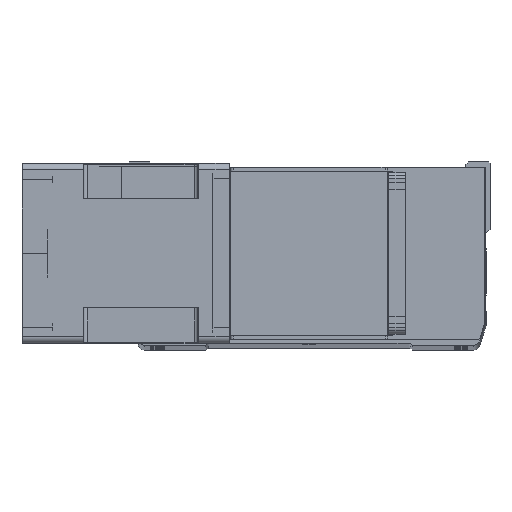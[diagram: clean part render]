
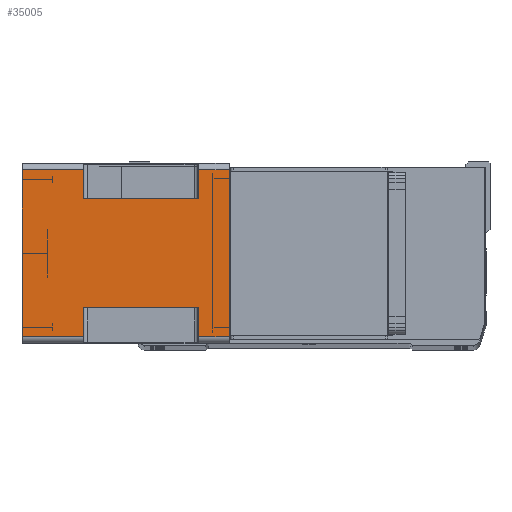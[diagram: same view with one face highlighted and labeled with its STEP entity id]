
A CAD part, top view. The second image highlights one B-rep face of the part: STEP entity #35005.
In plain terms, the highlighted planar face has unit normal (0, 0, 1) as drawn and (-1, 0, 0) by its records, which use the part's own axes.
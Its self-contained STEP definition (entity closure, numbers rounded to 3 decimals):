
#381 = EDGE_CURVE ( 'NONE', #16738, #31670, #1387, .T. ) ;
#1228 = CARTESIAN_POINT ( 'NONE',  ( -71., -43., -164. ) ) ;
#1387 = LINE ( 'NONE', #34903, #26887 ) ;
#2086 = CARTESIAN_POINT ( 'NONE',  ( -71., -66., -164. ) ) ;
#2561 = ORIENTED_EDGE ( 'NONE', *, *, #11242, .T. ) ;
#2959 = DIRECTION ( 'NONE',  ( 0., 0., 1. ) ) ;
#3012 = DIRECTION ( 'NONE',  ( 0., 0., 1. ) ) ;
#3371 = ORIENTED_EDGE ( 'NONE', *, *, #38699, .F. ) ;
#4619 = DIRECTION ( 'NONE',  ( 0., -1., 0. ) ) ;
#5558 = CARTESIAN_POINT ( 'NONE',  ( -71., -43., -115.5 ) ) ;
#5876 = ORIENTED_EDGE ( 'NONE', *, *, #33374, .T. ) ;
#6402 = VERTEX_POINT ( 'NONE', #11951 ) ;
#6813 = VECTOR ( 'NONE', #26526, 1000. ) ;
#6864 = PLANE ( 'NONE',  #30911 ) ;
#6909 = EDGE_CURVE ( 'NONE', #40257, #15637, #44112, .T. ) ;
#7667 = EDGE_CURVE ( 'NONE', #26452, #15637, #29658, .T. ) ;
#7987 = VECTOR ( 'NONE', #21641, 1000. ) ;
#8986 = EDGE_CURVE ( 'NONE', #6402, #43160, #26814, .T. ) ;
#9365 = DIRECTION ( 'NONE',  ( 0., 0., 1. ) ) ;
#9717 = VECTOR ( 'NONE', #4619, 1000. ) ;
#9842 = FACE_OUTER_BOUND ( 'NONE', #43805, .T. ) ;
#10413 = VECTOR ( 'NONE', #26051, 1000. ) ;
#10591 = VERTEX_POINT ( 'NONE', #36039 ) ;
#11242 = EDGE_CURVE ( 'NONE', #37660, #16792, #14865, .T. ) ;
#11733 = CARTESIAN_POINT ( 'NONE',  ( -71., -43., -24.5 ) ) ;
#11951 = CARTESIAN_POINT ( 'NONE',  ( -71., 43., -115.5 ) ) ;
#12220 = CARTESIAN_POINT ( 'NONE',  ( -71., 66., -164. ) ) ;
#12638 = VECTOR ( 'NONE', #29876, 1000. ) ;
#13315 = ORIENTED_EDGE ( 'NONE', *, *, #381, .T. ) ;
#13645 = VECTOR ( 'NONE', #23499, 1000. ) ;
#13922 = CARTESIAN_POINT ( 'NONE',  ( -71., 66., -24.5 ) ) ;
#14013 = LINE ( 'NONE', #40791, #6813 ) ;
#14575 = EDGE_CURVE ( 'NONE', #31550, #22144, #34786, .T. ) ;
#14865 = LINE ( 'NONE', #41079, #12638 ) ;
#15637 = VERTEX_POINT ( 'NONE', #40701 ) ;
#16250 = LINE ( 'NONE', #41067, #44513 ) ;
#16738 = VERTEX_POINT ( 'NONE', #13922 ) ;
#16792 = VERTEX_POINT ( 'NONE', #24587 ) ;
#16974 = DIRECTION ( 'NONE',  ( 0., 0., 1. ) ) ;
#17226 = DIRECTION ( 'NONE',  ( 0., -1., 0. ) ) ;
#17515 = VECTOR ( 'NONE', #3012, 1000. ) ;
#18051 = LINE ( 'NONE', #43194, #9717 ) ;
#21206 = LINE ( 'NONE', #22981, #25091 ) ;
#21553 = CARTESIAN_POINT ( 'NONE',  ( -71., -66., -24.5 ) ) ;
#21628 = ORIENTED_EDGE ( 'NONE', *, *, #29326, .F. ) ;
#21641 = DIRECTION ( 'NONE',  ( 0., 1., 0. ) ) ;
#21646 = ORIENTED_EDGE ( 'NONE', *, *, #6909, .F. ) ;
#21907 = ORIENTED_EDGE ( 'NONE', *, *, #14575, .F. ) ;
#22144 = VERTEX_POINT ( 'NONE', #5558 ) ;
#22826 = ORIENTED_EDGE ( 'NONE', *, *, #30489, .T. ) ;
#22981 = CARTESIAN_POINT ( 'NONE',  ( -71., 66., -164. ) ) ;
#23499 = DIRECTION ( 'NONE',  ( 0., -1., 0. ) ) ;
#23616 = CARTESIAN_POINT ( 'NONE',  ( -71., -66., -164. ) ) ;
#23623 = ORIENTED_EDGE ( 'NONE', *, *, #27146, .T. ) ;
#24072 = CARTESIAN_POINT ( 'NONE',  ( -71., 43., -164. ) ) ;
#24337 = DIRECTION ( 'NONE',  ( -1., 0., 0. ) ) ;
#24587 = CARTESIAN_POINT ( 'NONE',  ( -71., -66., -115.5 ) ) ;
#25091 = VECTOR ( 'NONE', #9365, 1000. ) ;
#26051 = DIRECTION ( 'NONE',  ( 0., 0., -1. ) ) ;
#26452 = VERTEX_POINT ( 'NONE', #21553 ) ;
#26526 = DIRECTION ( 'NONE',  ( 0., -1., 0. ) ) ;
#26646 = ORIENTED_EDGE ( 'NONE', *, *, #8986, .T. ) ;
#26814 = LINE ( 'NONE', #38834, #7987 ) ;
#26887 = VECTOR ( 'NONE', #32547, 1000. ) ;
#26892 = VECTOR ( 'NONE', #16974, 1000. ) ;
#27060 = CARTESIAN_POINT ( 'NONE',  ( -71., -66., 0. ) ) ;
#27146 = EDGE_CURVE ( 'NONE', #16792, #22144, #16250, .T. ) ;
#28721 = VECTOR ( 'NONE', #2959, 1000. ) ;
#29257 = ORIENTED_EDGE ( 'NONE', *, *, #41899, .F. ) ;
#29326 = EDGE_CURVE ( 'NONE', #16738, #40257, #34211, .T. ) ;
#29658 = LINE ( 'NONE', #23616, #26892 ) ;
#29876 = DIRECTION ( 'NONE',  ( 0., 0., 1. ) ) ;
#30489 = EDGE_CURVE ( 'NONE', #10591, #37660, #18051, .T. ) ;
#30911 = AXIS2_PLACEMENT_3D ( 'NONE', #34987, #24337, #17226 ) ;
#31550 = VERTEX_POINT ( 'NONE', #11733 ) ;
#31670 = VERTEX_POINT ( 'NONE', #33171 ) ;
#32547 = DIRECTION ( 'NONE',  ( 0., -1., 0. ) ) ;
#33171 = CARTESIAN_POINT ( 'NONE',  ( -71., 43., -24.5 ) ) ;
#33276 = ORIENTED_EDGE ( 'NONE', *, *, #7667, .T. ) ;
#33374 = EDGE_CURVE ( 'NONE', #31550, #26452, #14013, .T. ) ;
#34211 = LINE ( 'NONE', #12220, #28721 ) ;
#34316 = DIRECTION ( 'NONE',  ( 0., 1., 0. ) ) ;
#34786 = LINE ( 'NONE', #1228, #10413 ) ;
#34903 = CARTESIAN_POINT ( 'NONE',  ( -71., 43., -24.5 ) ) ;
#34987 = CARTESIAN_POINT ( 'NONE',  ( -71., -66., -164. ) ) ;
#35005 = ADVANCED_FACE ( 'NONE', ( #9842 ), #6864, .T. ) ;
#36039 = CARTESIAN_POINT ( 'NONE',  ( -71., 66., -164. ) ) ;
#36958 = CARTESIAN_POINT ( 'NONE',  ( -71., 66., -115.5 ) ) ;
#37660 = VERTEX_POINT ( 'NONE', #2086 ) ;
#38557 = LINE ( 'NONE', #24072, #17515 ) ;
#38699 = EDGE_CURVE ( 'NONE', #10591, #43160, #21206, .T. ) ;
#38834 = CARTESIAN_POINT ( 'NONE',  ( -71., -66., -115.5 ) ) ;
#40257 = VERTEX_POINT ( 'NONE', #41213 ) ;
#40701 = CARTESIAN_POINT ( 'NONE',  ( -71., -66., 0. ) ) ;
#40791 = CARTESIAN_POINT ( 'NONE',  ( -71., -66., -24.5 ) ) ;
#41067 = CARTESIAN_POINT ( 'NONE',  ( -71., -43., -115.5 ) ) ;
#41079 = CARTESIAN_POINT ( 'NONE',  ( -71., -66., -164. ) ) ;
#41213 = CARTESIAN_POINT ( 'NONE',  ( -71., 66., 0. ) ) ;
#41899 = EDGE_CURVE ( 'NONE', #6402, #31670, #38557, .T. ) ;
#43160 = VERTEX_POINT ( 'NONE', #36958 ) ;
#43194 = CARTESIAN_POINT ( 'NONE',  ( -71., -66., -164. ) ) ;
#43805 = EDGE_LOOP ( 'NONE', ( #2561, #23623, #21907, #5876, #33276, #21646, #21628, #13315, #29257, #26646, #3371, #22826 ) ) ;
#44112 = LINE ( 'NONE', #27060, #13645 ) ;
#44513 = VECTOR ( 'NONE', #34316, 1000. ) ;
